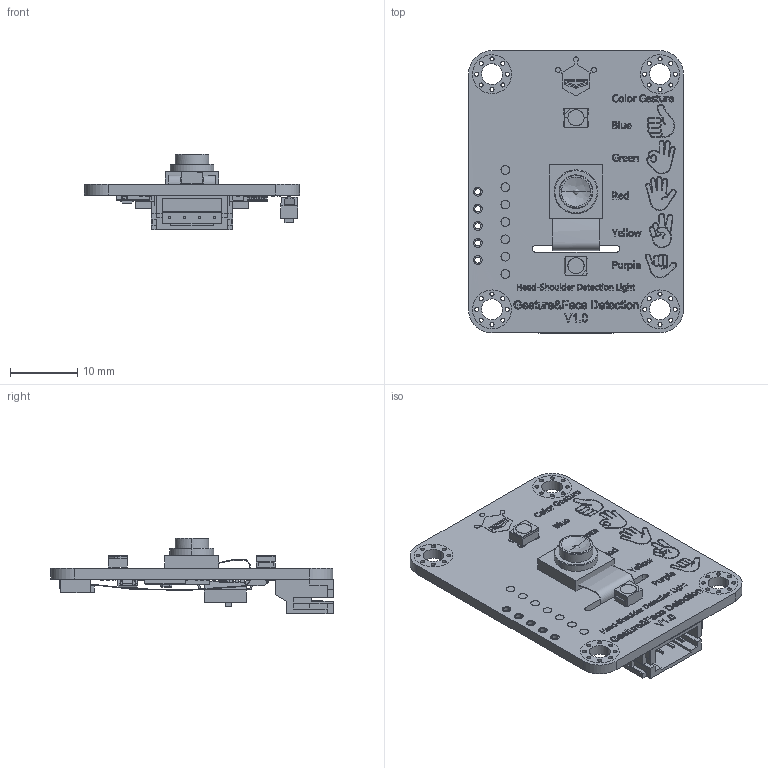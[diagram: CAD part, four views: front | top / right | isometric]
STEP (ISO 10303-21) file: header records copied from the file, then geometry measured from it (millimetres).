
FILE_DESCRIPTION(/* description */ (''),/* implementation_level */ '2;1');
FILE_NAME(/* name */ 'SEN0626',/* time_stamp */ '2024-12-07T16:49:05+08:00',/* author */ (''),/* organization */ (''),/* preprocessor_version */ 'ST-DEVELOPER v16.5',/* originating_system */ '',/* authorisation */ '');
FILE_SCHEMA (('AUTOMOTIVE_DESIGN'));
Products named in the file (1): Document
Bounding box: 32 x 42.06 x 11.27 mm (x, y, z)
Volume: 2790.3 mm3; surface area: 6044.8 mm2
Topology: 348 solids, 385 shells, 6563 faces, 16207 edges, 10345 vertices
Faces by surface type: plane 3757, bspline 2806
Entity records: 226202 total; most frequent: CARTESIAN_POINT 118826, ORIENTED_EDGE 32064, EDGE_CURVE 16141, B_SPLINE_CURVE_WITH_KNOTS 12304, VERTEX_POINT 10344, EDGE_LOOP 6828, ADVANCED_FACE 6562, FACE_OUTER_BOUND 6562
